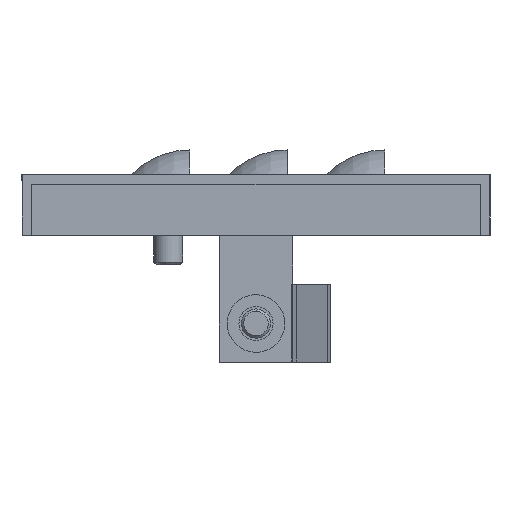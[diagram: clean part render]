
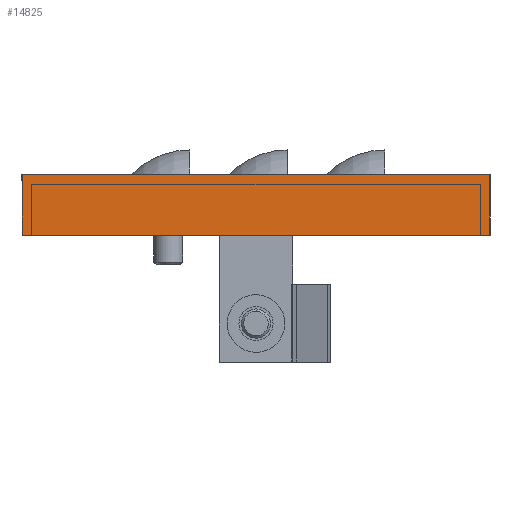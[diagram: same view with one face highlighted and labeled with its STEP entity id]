
A CAD part, left-side view. The second image highlights one B-rep face of the part: STEP entity #14825.
In plain terms, the highlighted planar face has unit normal (-1, 0, 0).
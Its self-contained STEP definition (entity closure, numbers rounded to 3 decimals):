
#828 = VECTOR ( 'NONE', #9852, 1000. ) ;
#870 = VERTEX_POINT ( 'NONE', #7443 ) ;
#943 = DIRECTION ( 'NONE',  ( 0., 0., -1. ) ) ;
#971 = ORIENTED_EDGE ( 'NONE', *, *, #5563, .F. ) ;
#1106 = CARTESIAN_POINT ( 'NONE',  ( -595., 0., -12.5 ) ) ;
#1370 = ORIENTED_EDGE ( 'NONE', *, *, #6303, .T. ) ;
#1893 = EDGE_CURVE ( 'NONE', #4712, #13489, #9764, .T. ) ;
#3799 = LINE ( 'NONE', #9183, #7576 ) ;
#4066 = CARTESIAN_POINT ( 'NONE',  ( -595., -48., -2. ) ) ;
#4712 = VERTEX_POINT ( 'NONE', #11155 ) ;
#5394 = FACE_OUTER_BOUND ( 'NONE', #8648, .T. ) ;
#5563 = EDGE_CURVE ( 'NONE', #4712, #870, #11801, .T. ) ;
#6117 = DIRECTION ( 'NONE',  ( 0., 0., -1. ) ) ;
#6201 = LINE ( 'NONE', #7680, #16936 ) ;
#6303 = EDGE_CURVE ( 'NONE', #14989, #870, #3799, .T. ) ;
#7321 = CARTESIAN_POINT ( 'NONE',  ( -595., 0., 0. ) ) ;
#7443 = CARTESIAN_POINT ( 'NONE',  ( -595., -96., -12.5 ) ) ;
#7576 = VECTOR ( 'NONE', #7844, 1000. ) ;
#7641 = CARTESIAN_POINT ( 'NONE',  ( -595., -96., 2.928 ) ) ;
#7680 = CARTESIAN_POINT ( 'NONE',  ( -595., 0., 2.928 ) ) ;
#7844 = DIRECTION ( 'NONE',  ( 0., -1., 0. ) ) ;
#8648 = EDGE_LOOP ( 'NONE', ( #17104, #9402, #1370, #971 ) ) ;
#9176 = PLANE ( 'NONE',  #11106 ) ;
#9183 = CARTESIAN_POINT ( 'NONE',  ( -595., -48., -12.5 ) ) ;
#9402 = ORIENTED_EDGE ( 'NONE', *, *, #13052, .T. ) ;
#9764 = LINE ( 'NONE', #15216, #828 ) ;
#9852 = DIRECTION ( 'NONE',  ( 0., 1., 0. ) ) ;
#10862 = DIRECTION ( 'NONE',  ( 1., 0., 0. ) ) ;
#11106 = AXIS2_PLACEMENT_3D ( 'NONE', #4066, #10862, #16048 ) ;
#11155 = CARTESIAN_POINT ( 'NONE',  ( -595., -96., 0. ) ) ;
#11801 = LINE ( 'NONE', #7641, #15527 ) ;
#13052 = EDGE_CURVE ( 'NONE', #13489, #14989, #6201, .T. ) ;
#13489 = VERTEX_POINT ( 'NONE', #7321 ) ;
#14825 = ADVANCED_FACE ( 'NONE', ( #5394 ), #9176, .F. ) ;
#14989 = VERTEX_POINT ( 'NONE', #1106 ) ;
#15216 = CARTESIAN_POINT ( 'NONE',  ( -595., -48., 0. ) ) ;
#15527 = VECTOR ( 'NONE', #943, 1000. ) ;
#16048 = DIRECTION ( 'NONE',  ( 0., 1., 0. ) ) ;
#16936 = VECTOR ( 'NONE', #6117, 1000. ) ;
#17104 = ORIENTED_EDGE ( 'NONE', *, *, #1893, .T. ) ;
